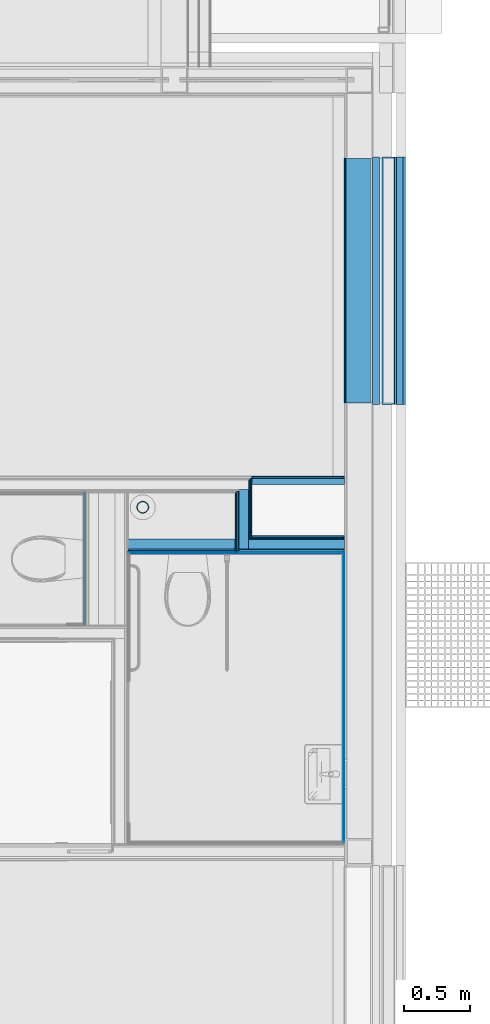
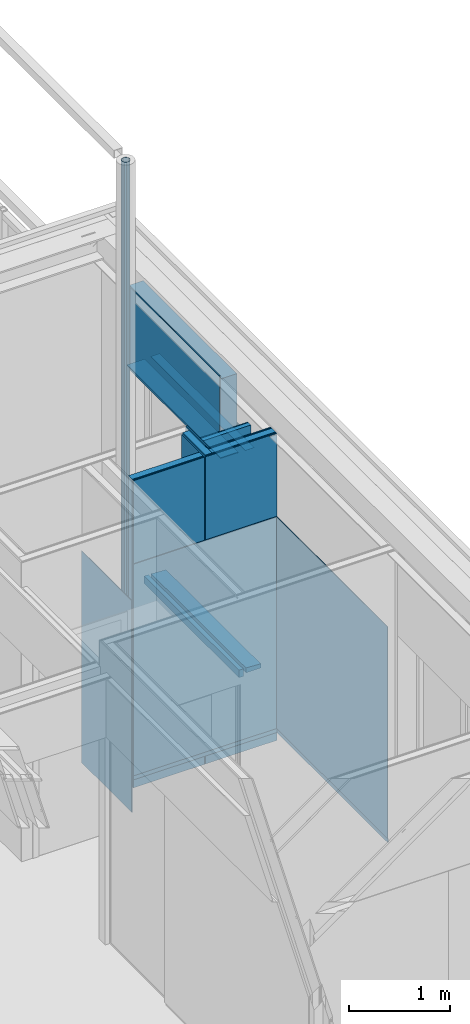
# One storey, part 75 of 165: 28 building element parts, 11 elements without a shape of their own.
"""IFC2X3 building model written with IfcOpenShell, lengths in millimetres."""

from ifc_helpers import new_model, entity, si_unit, converted_unit, derived_unit, money_unit, direction, frame, origin_with_axes, place, context, subcontext, project, spatial, faceted_brep, material, type_object, element, aggregate, save


model = new_model("IFC2X3")

# Units and contexts
model_context = context("Model", 3, precision=0.01, world=origin_with_axes(), true_north=direction((0.0, 1.0)))
body_context = subcontext(model_context, "Body", "Model", "MODEL_VIEW")
ifc_project = project(units=[si_unit("LENGTHUNIT", "METRE", prefix="MILLI"), si_unit("AREAUNIT", "SQUARE_METRE"), si_unit("VOLUMEUNIT", "CUBIC_METRE"), converted_unit("PLANEANGLEUNIT", "DEGREE", entity("IfcPlaneAngleMeasure", 0.0174532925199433), si_unit("PLANEANGLEUNIT", "RADIAN"), dimensions=[0, 0, 0, 0, 0, 0, 0]), money_unit("EUR"), converted_unit("TIMEUNIT", "Year", entity("IfcTimeMeasure", 31556926.0), si_unit("TIMEUNIT", "SECOND"), dimensions=[0, 0, 1, 0, 0, 0, 0]), si_unit("MASSUNIT", "GRAM", prefix="KILO"), si_unit("THERMODYNAMICTEMPERATUREUNIT", "DEGREE_CELSIUS"), si_unit("LUMINOUSINTENSITYUNIT", "LUMEN"), si_unit("ENERGYUNIT", "JOULE", prefix="MEGA"), derived_unit("THERMALCONDUCTANCEUNIT", [(si_unit("POWERUNIT", "WATT"), 1), (si_unit("LENGTHUNIT", "METRE"), -1), (si_unit("THERMODYNAMICTEMPERATUREUNIT", "KELVIN"), -1)]), derived_unit("SPECIFICHEATCAPACITYUNIT", [(si_unit("ENERGYUNIT", "JOULE"), 1), (si_unit("MASSUNIT", "GRAM", prefix="KILO"), -1), (si_unit("THERMODYNAMICTEMPERATUREUNIT", "KELVIN"), -1)]), derived_unit("MASSDENSITYUNIT", [(si_unit("MASSUNIT", "GRAM", prefix="KILO"), 1), (si_unit("VOLUMEUNIT", "CUBIC_METRE"), -1)])], contexts=[model_context])

# Site, building, storey
site_placement = place(None, origin_with_axes())
site = spatial("IfcSite", under=ifc_project, at=site_placement, Name="Site", CompositionType="ELEMENT")
building_placement = place(site_placement, origin_with_axes())
building = spatial("IfcBuilding", under=site, at=building_placement, Name="Naam gebouw", CompositionType="ELEMENT")
storey_placement = place(building_placement, origin_with_axes())
storey = spatial("IfcBuildingStorey", under=building, at=storey_placement, Name="Begane grond", CompositionType="ELEMENT", Elevation=0.0)

# Proxy, building element parts
building_element_proxy_type_1 = type_object("IfcBuildingElementProxyType", Name="22 Metal stud 100 voorzetwand 100", PredefinedType="NOTDEFINED")
proxy_1_placement = place(storey_placement, frame((28049.99849422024, 13074.99778100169, -100.0), z_axis=(0.0, 0.0, 1.0), x_axis=(1.0, -5.154366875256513e-09, 0.0)))
proxy_1 = element("IfcBuildingElementProxy", 1, at=proxy_1_placement, inside=storey, type_object=building_element_proxy_type_1, Name="_Wand-x")
ifc_material_1 = material(Name="ALG - LICHTE SCHEIDINGSWAND")
building_element_part_1_placement = place(proxy_1_placement, origin_with_axes())
building_element_part_1 = element("IfcBuildingElementPart", 2, at=building_element_part_1_placement, material=ifc_material_1, Name="ALG - LICHTE SCHEIDINGSWAND", context=body_context, shape_type="Brep", body=[
    faceted_brep([(811.0015056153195, 25.0000004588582, 3700.0), (811.0015052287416, 100.0000004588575, 3700.0), (-6.67035919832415e-05, 99.99999999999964, 3700.0), (-1.667589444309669e-05, 25.00000000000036, 3700.0), (811.0015052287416, 100.0000004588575, 0.0), (811.0015056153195, 25.0000004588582, 0.0), (-6.67035919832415e-05, 99.99999999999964, 0.0), (-1.667589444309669e-05, 25.00000000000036, 0.0)], [[[0, 1, 2, 3]], [[4, 1, 0, 5]], [[1, 4, 6, 2]], [[6, 7, 3, 2]], [[5, 0, 3, 7]], [[4, 5, 7, 6]]]),
])
ifc_material_2 = material(Name="Gipsplaat")
building_element_part_2_placement = place(proxy_1_placement, origin_with_axes())
building_element_part_2 = element("IfcBuildingElementPart", 3, at=building_element_part_2_placement, material=ifc_material_2, Name="Gipsplaat", context=body_context, shape_type="Brep", body=[
    faceted_brep([(811.0015057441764, 0.0, 3700.0), (811.0015056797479, 12.50000006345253, 3700.0), (-8.337945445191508e-06, 12.50000000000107, 3700.0), (0.0, 0.0, 3700.0), (811.0015056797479, 12.50000006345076, 0.0), (811.0015057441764, 0.0, 0.0), (-8.337945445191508e-06, 12.49999999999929, 0.0), (0.0, 0.0, 0.0)], [[[0, 1, 2, 3]], [[4, 1, 0, 5]], [[1, 4, 6, 2]], [[6, 7, 3, 2]], [[5, 0, 3, 7]], [[4, 5, 7, 6]]]),
])
building_element_part_3_placement = place(proxy_1_placement, origin_with_axes())
building_element_part_3 = element("IfcBuildingElementPart", 4, at=building_element_part_3_placement, material=ifc_material_2, Name="Gipsplaat", context=body_context, shape_type="Brep", body=[
    faceted_brep([(811.0015056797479, 12.50000012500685, 3700.0), (811.0015056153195, 25.00000012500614, 3700.0), (-1.667589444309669e-05, 25.00000000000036, 3700.0), (-8.337945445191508e-06, 12.50000000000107, 3700.0), (811.0015056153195, 25.00000012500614, 0.0), (811.0015056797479, 12.50000012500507, 0.0), (-1.667589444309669e-05, 25.00000000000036, 0.0), (-8.337945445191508e-06, 12.49999999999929, 0.0)], [[[0, 1, 2, 3]], [[4, 1, 0, 5]], [[1, 4, 6, 2]], [[6, 7, 3, 2]], [[5, 0, 3, 7]], [[4, 5, 7, 6]]]),
])
aggregate(proxy_1, [building_element_part_1, building_element_part_2, building_element_part_3])

# Beam, building element parts
beam_type_1 = type_object("IfcBeamType", Name="41 Latei/geveldrager 158 x 112", PredefinedType="BEAM")
beam_1_placement = place(storey_placement, frame((30080.0, 16065.99778166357, 2610.0), z_axis=(0.0, 0.0, 1.0), x_axis=(-1.0, 0.0, 0.0)))
beam_1 = element("IfcBeam", 5, at=beam_1_placement, inside=storey, type_object=beam_type_1, Name="_Regenwaterafvoer-x", ObjectType="BEAM")
ifc_material_3 = material(Name="Metaal - Staal C")
building_element_part_4_placement = place(beam_1_placement, origin_with_axes())
building_element_part_4 = element("IfcBuildingElementPart", 6, at=building_element_part_4_placement, material=ifc_material_3, Name="Metaal - Staal C", context=body_context, shape_type="Brep", body=[
    faceted_brep([(-50.00000000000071, 1869.999999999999, 6.55651533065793e-07), (-50.00000000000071, 1869.999999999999, -3.000000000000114), (-50.00000000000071, 0.0, -3.000000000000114), (-50.00000000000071, 0.0, 6.55651533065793e-07), (-5.9603877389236e-08, 1869.999999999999, 6.55651533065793e-07), (-5.9603877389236e-08, 1869.999999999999, 99.3417707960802), (16.54654975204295, 1869.999999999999, 108.894926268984), (18.04655007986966, 1869.999999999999, 106.296849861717), (3.000000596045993, 1869.999999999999, 96.99999988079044), (3.000000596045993, 1869.999999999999, 6.55651533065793e-07), (3.000000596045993, 1869.999999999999, -3.000000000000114), (3.000000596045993, 0.0, -3.000000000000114), (3.000000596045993, 0.0, 6.55651533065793e-07), (3.000000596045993, 0.0, 96.99999988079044), (18.04655007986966, 0.0, 106.296849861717), (16.54654975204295, 0.0, 108.894926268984), (-5.9603877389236e-08, 0.0, 99.3417707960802), (-5.9603877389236e-08, 0.0, 6.55651533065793e-07)], [[[0, 1, 2, 3]], [[0, 4, 5, 6, 7, 8, 9, 10, 1]], [[1, 10, 11, 2]], [[3, 2, 11, 12, 13, 14, 15, 16, 17]], [[4, 0, 3, 17]], [[5, 4, 17, 16]], [[6, 5, 16, 15]], [[7, 6, 15, 14]], [[8, 7, 14, 13]], [[9, 8, 13, 12]], [[10, 9, 12, 11]]]),
])
building_element_part_5_placement = place(beam_1_placement, origin_with_axes())
building_element_part_5 = element("IfcBuildingElementPart", 7, at=building_element_part_5_placement, material=ifc_material_3, Name="Metaal - Staal C", context=body_context, shape_type="Brep", body=[
    faceted_brep([(3.000000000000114, 1869.999999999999, -3.000000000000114), (108.0000000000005, 1869.999999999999, -3.000000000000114), (108.0000000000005, 0.0, -3.000000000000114), (3.000000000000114, 0.0, -3.000000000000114), (3.000000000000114, 1869.999999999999, 0.0), (108.0000000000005, 1869.999999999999, 0.0), (108.0000000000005, 0.0, 0.0), (3.000000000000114, 0.0, 0.0)], [[[0, 1, 2, 3]], [[0, 4, 5, 1]], [[1, 5, 6, 2]], [[3, 2, 6, 7]], [[4, 0, 3, 7]], [[5, 4, 7, 6]]]),
])
aggregate(beam_1, [building_element_part_4, building_element_part_5])

beam_type_2 = type_object("IfcBeamType", Name="31 Betondorpel 250 x 90", PredefinedType="BEAM")
beam_2_placement = place(storey_placement, frame((30150.0, 16065.99778166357, -100.0000000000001), z_axis=(0.0, 0.0, 1.0), x_axis=(-1.0, 0.0, 0.0)))
beam_2 = element("IfcBeam", 8, at=beam_2_placement, inside=storey, type_object=beam_type_2, Name="_Regenwaterafvoer-x", ObjectType="BEAM")
ifc_material_4 = material(Name="Beton gewapend prefab")
building_element_part_6_placement = place(beam_2_placement, origin_with_axes())
building_element_part_6 = element("IfcBuildingElementPart", 9, at=building_element_part_6_placement, material=ifc_material_4, Name="Beton gewapend prefab", context=body_context, shape_type="Brep", body=[
    faceted_brep([(0.0, 1869.999999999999, 30.04212834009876), (169.9999999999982, 1869.999999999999, 30.04212834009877), (170.0000000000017, 0.0, 30.04212834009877), (0.0, 0.0, 30.04212834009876), (0.0, 1869.999999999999, 80.04212834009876), (169.9999999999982, 1869.999999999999, 90.04212834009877), (169.9999999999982, 1869.999999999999, 90.00000000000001), (170.0000000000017, 0.0, 90.00000000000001), (170.0000000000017, 0.0, 90.04212834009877), (0.0, 0.0, 80.04212834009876)], [[[0, 1, 2, 3]], [[0, 4, 5, 6, 1]], [[1, 6, 7, 2]], [[3, 2, 7, 8, 9]], [[4, 0, 3, 9]], [[5, 4, 9, 8]], [[6, 5, 8, 7]]]),
])
ifc_material_5 = material(Name="Isolatie - Kunststof hard")
building_element_part_7_placement = place(beam_2_placement, origin_with_axes())
building_element_part_7 = element("IfcBuildingElementPart", 10, at=building_element_part_7_placement, material=ifc_material_5, Name="Isolatie - Kunststof hard", context=body_context, shape_type="Brep", body=[
    faceted_brep([(199.9999999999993, 1869.999999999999, 0.0), (250.0, 1869.999999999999, 0.0), (250.0, 0.0, 0.0), (199.9999999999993, 0.0, 0.0), (199.9999999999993, 1869.999999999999, 30.04212815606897), (199.9999999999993, 1869.999999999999, 90.00000000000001), (250.0, 1869.999999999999, 90.00000000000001), (250.0, 0.0, 90.00000000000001), (199.9999999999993, 0.0, 90.00000000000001), (199.9999999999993, 0.0, 30.04212815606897)], [[[0, 1, 2, 3]], [[0, 4, 5, 6, 1]], [[1, 6, 7, 2]], [[3, 2, 7, 8, 9]], [[4, 0, 3, 9]], [[5, 4, 9, 8]], [[6, 5, 8, 7]]]),
])
aggregate(beam_2, [building_element_part_6, building_element_part_7])

# Column, building element part
column_type = type_object("IfcColumnType", Name="50 HWA pluvia 190 x 190", PredefinedType="COLUMN")
column_placement = place(storey_placement, frame((28160.42270007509, 13417.00472609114, -449.9999999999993), z_axis=(0.0, 0.0, 1.0), x_axis=(1.0, 0.0, 0.0)))
column = element("IfcColumn", 11, at=column_placement, inside=storey, type_object=column_type, Name="28_Kolom-x", ObjectType="COLUMN")
building_element_part_8_placement = place(column_placement, origin_with_axes())
building_element_part_8 = element("IfcBuildingElementPart", 12, at=building_element_part_8_placement, material=ifc_material_3, Name="Metaal - Staal C", context=body_context, shape_type="Brep", body=[
    faceted_brep([(45.00000000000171, 0.0, 0.0), (41.57457896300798, 17.22075445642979, 0.0), (41.57457896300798, 17.22075445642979, 7670.0), (45.00000000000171, 0.0, 7670.0), (41.57457896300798, -17.22075445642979, 0.0), (31.81980515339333, -31.81980515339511, 0.0), (17.22075445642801, -41.57457896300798, 0.0), (0.0, -44.99999999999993, 0.0), (-17.22075445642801, -41.57457896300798, 0.0), (-31.81980515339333, -31.81980515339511, 0.0), (-41.57457896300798, -17.22075445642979, 0.0), (-45.00000000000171, 0.0, 0.0), (-41.57457896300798, 17.22075445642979, 0.0), (-31.81980515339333, 31.81980515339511, 0.0), (-17.22075445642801, 41.57457896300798, 0.0), (0.0, 44.99999999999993, 0.0), (17.22075445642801, 41.57457896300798, 0.0), (31.81980515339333, 31.81980515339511, 0.0), (-42.00000000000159, 0.0, 0.0), (-38.80294036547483, -16.07270415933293, 0.0), (-29.69848480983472, -29.69848480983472, 0.0), (-16.07270415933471, -38.80294036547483, 0.0), (0.0, -41.99999999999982, 0.0), (16.07270415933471, -38.80294036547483, 0.0), (29.69848480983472, -29.69848480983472, 0.0), (38.80294036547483, -16.07270415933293, 0.0), (42.00000000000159, 0.0, 0.0), (38.80294036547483, 16.07270415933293, 0.0), (29.69848480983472, 29.69848480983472, 0.0), (16.07270415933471, 38.80294036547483, 0.0), (0.0, 41.99999999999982, 0.0), (-16.07270415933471, 38.80294036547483, 0.0), (-29.69848480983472, 29.69848480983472, 0.0), (-38.80294036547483, 16.07270415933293, 0.0), (31.81980515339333, 31.81980515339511, 7670.0), (17.22075445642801, 41.57457896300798, 7670.0), (0.0, 44.99999999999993, 7670.0), (-17.22075445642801, 41.57457896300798, 7670.0), (-31.81980515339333, 31.81980515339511, 7670.0), (-41.57457896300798, 17.22075445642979, 7670.0), (-45.00000000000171, 0.0, 7670.0), (-41.57457896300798, -17.22075445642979, 7670.0), (-31.81980515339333, -31.81980515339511, 7670.0), (-17.22075445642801, -41.57457896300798, 7670.0), (0.0, -44.99999999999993, 7670.0), (17.22075445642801, -41.57457896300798, 7670.0), (31.81980515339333, -31.81980515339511, 7670.0), (41.57457896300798, -17.22075445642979, 7670.0), (-42.00000000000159, 0.0, 7670.0), (-38.80294036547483, 16.07270415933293, 7670.0), (-29.69848480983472, 29.69848480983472, 7670.0), (-16.07270415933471, 38.80294036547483, 7670.0), (0.0, 41.99999999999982, 7670.0), (16.07270415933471, 38.80294036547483, 7670.0), (29.69848480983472, 29.69848480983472, 7670.0), (38.80294036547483, 16.07270415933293, 7670.0), (42.00000000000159, 0.0, 7670.0), (38.80294036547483, -16.07270415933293, 7670.0), (29.69848480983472, -29.69848480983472, 7670.0), (16.07270415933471, -38.80294036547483, 7670.0), (0.0, -41.99999999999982, 7670.0), (-16.07270415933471, -38.80294036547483, 7670.0), (-29.69848480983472, -29.69848480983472, 7670.0), (-38.80294036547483, -16.07270415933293, 7670.0)], [[[0, 1, 2, 3]], [[0, 4, 5, 6, 7, 8, 9, 10, 11, 12, 13, 14, 15, 16, 17, 1], [18, 19, 20, 21, 22, 23, 24, 25, 26, 27, 28, 29, 30, 31, 32, 33]], [[1, 17, 34, 2]], [[3, 2, 34, 35, 36, 37, 38, 39, 40, 41, 42, 43, 44, 45, 46, 47], [48, 49, 50, 51, 52, 53, 54, 55, 56, 57, 58, 59, 60, 61, 62, 63]], [[4, 0, 3, 47]], [[5, 4, 47, 46]], [[6, 5, 46, 45]], [[7, 6, 45, 44]], [[8, 7, 44, 43]], [[9, 8, 43, 42]], [[10, 9, 42, 41]], [[11, 10, 41, 40]], [[12, 11, 40, 39]], [[13, 12, 39, 38]], [[14, 13, 38, 37]], [[15, 14, 37, 36]], [[16, 15, 36, 35]], [[17, 16, 35, 34]], [[19, 18, 48, 63]], [[20, 19, 63, 62]], [[21, 20, 62, 61]], [[22, 21, 61, 60]], [[23, 22, 60, 59]], [[24, 23, 59, 58]], [[25, 24, 58, 57]], [[26, 25, 57, 56]], [[27, 26, 56, 55]], [[28, 27, 55, 54]], [[29, 28, 54, 53]], [[30, 29, 53, 52]], [[31, 30, 52, 51]], [[32, 31, 51, 50]], [[33, 32, 50, 49]], [[18, 33, 49, 48]]]),
])
aggregate(column, [building_element_part_8])

# Proxy, building element parts
building_element_proxy_type_2 = type_object("IfcBuildingElementProxyType", Name="42 Tegelwerk 2600+ 12 x 2600", PredefinedType="NOTDEFINED")
proxy_2_placement = place(storey_placement, frame((29666.0, 10892.50011055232, 0.0), z_axis=(0.0, 0.0, 1.0), x_axis=(0.0, 1.0, 0.0)))
proxy_2 = element("IfcBuildingElementProxy", 13, at=proxy_2_placement, inside=storey, type_object=building_element_proxy_type_2, Name="_Wand-x")
ifc_material_6 = material(Name="21 STO lijmlaag")
building_element_part_9_placement = place(proxy_2_placement, origin_with_axes())
building_element_part_9 = element("IfcBuildingElementPart", 14, at=building_element_part_9_placement, material=ifc_material_6, Name="21 STO lijmlaag", context=body_context, shape_type="Brep", body=[
    faceted_brep([(-13.00000447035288, -13.00000447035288, 2600.0), (-13.00000447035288, -19.99999552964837, 2600.0), (2182.497678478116, -19.99999552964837, 2600.0), (2182.497678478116, -13.00000447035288, 2600.0), (-13.00000447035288, -19.99999552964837, 50.00000000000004), (-13.00000447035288, -13.00000447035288, 50.00000000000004), (-13.00000447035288, -14.99999850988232, 50.00000000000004), (2182.497678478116, -19.99999552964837, 50.00000596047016), (2182.497678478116, -13.00000447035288, 50.00000596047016), (2182.497678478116, -14.99999850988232, 50.00000596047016)], [[[0, 1, 2, 3]], [[4, 1, 0, 5, 6]], [[1, 4, 7, 2]], [[8, 3, 2, 7, 9]], [[5, 0, 3, 8]], [[6, 5, 8, 9]], [[4, 6, 9, 7]]]),
])
ifc_material_7 = material(Name="48 vloeivloer Bolidt")
building_element_part_10_placement = place(proxy_2_placement, origin_with_axes())
building_element_part_10 = element("IfcBuildingElementPart", 15, at=building_element_part_10_placement, material=ifc_material_7, Name="48 vloeivloer Bolidt", context=body_context, shape_type="Brep", body=[
    faceted_brep([(-14.99999850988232, -14.99999850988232, 50.00000596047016), (-14.99999850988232, -19.99998360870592, 50.00000596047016), (2182.497678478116, -19.99998360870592, 50.00000596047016), (2182.497678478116, -14.99999850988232, 50.00000596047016), (-14.99999850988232, -19.99998360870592, 0.0), (-14.99999850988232, -14.99999850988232, 0.0), (2182.497678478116, -19.99998360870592, 0.0), (2182.497678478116, -14.99999850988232, 0.0)], [[[0, 1, 2, 3]], [[4, 1, 0, 5]], [[1, 4, 6, 2]], [[3, 2, 6, 7]], [[5, 0, 3, 7]], [[4, 5, 7, 6]]]),
])
aggregate(proxy_2, [building_element_part_9, building_element_part_10])

proxy_3_placement = place(storey_placement, frame((29666.0, 13054.99778157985, 0.0), z_axis=(0.0, 0.0, 1.0), x_axis=(-1.0, -3.57774182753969e-10, 0.0)))
proxy_3 = element("IfcBuildingElementProxy", 16, at=proxy_3_placement, inside=storey, type_object=building_element_proxy_type_2, Name="_Wand-x")
building_element_part_11_placement = place(proxy_3_placement, origin_with_axes())
building_element_part_11 = element("IfcBuildingElementPart", 17, at=building_element_part_11_placement, material=ifc_material_6, Name="21 STO lijmlaag", context=body_context, shape_type="Brep", body=[
    faceted_brep([(-13.00000447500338, -13.0000044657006, 2600.0), (-13.00000447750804, -19.99999552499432, 2600.0), (1616.001513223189, -19.99999610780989, 2600.0), (1616.001508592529, -13.00000504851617, 2600.0), (-13.00000447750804, -19.99999552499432, 50.00000000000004), (-13.00000447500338, -13.0000044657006, 50.00000000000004), (-13.00000447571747, -14.99999850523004, 50.00000000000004), (1616.001513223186, -19.99999610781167, 50.00000596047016), (1616.001508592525, -13.00000504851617, 50.00000596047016), (1616.00150991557, -14.99999908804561, 50.00000596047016)], [[[0, 1, 2, 3]], [[4, 1, 0, 5, 6]], [[1, 4, 7, 2]], [[8, 3, 2, 7, 9]], [[5, 0, 3, 8]], [[6, 5, 8, 9]], [[4, 6, 9, 7]]]),
])
building_element_part_12_placement = place(proxy_3_placement, origin_with_axes())
building_element_part_12 = element("IfcBuildingElementPart", 18, at=building_element_part_12_placement, material=ifc_material_7, Name="48 vloeivloer Bolidt", context=body_context, shape_type="Brep", body=[
    faceted_brep([(-14.99999851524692, -14.99999850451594, 50.00000596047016), (-14.99999851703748, -19.99998360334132, 50.00000596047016), (1616.001513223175, -19.99998418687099, 50.00000596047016), (1616.00150991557, -14.99999908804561, 50.00000596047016), (-14.99999851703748, -19.99998360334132, 0.0), (-14.99999851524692, -14.99999850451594, 0.0), (1616.001513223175, -19.99998418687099, 0.0), (1616.00150991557, -14.99999908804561, 0.0)], [[[0, 1, 2, 3]], [[4, 1, 0, 5]], [[1, 4, 6, 2]], [[3, 2, 6, 7]], [[5, 0, 3, 7]], [[4, 5, 7, 6]]]),
])
aggregate(proxy_3, [building_element_part_11, building_element_part_12])

# Proxy, building element part
proxy_4_placement = place(storey_placement, frame((27704.99814997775, 12544.99908016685, 0.0), z_axis=(0.0, 0.0, 1.0), x_axis=(4.734246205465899e-08, 0.9999999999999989, 0.0)))
proxy_4 = element("IfcBuildingElementProxy", 19, at=proxy_4_placement, inside=storey, type_object=building_element_proxy_type_2, Name="_Wand-x")
building_element_part_13_placement = place(proxy_4_placement, origin_with_axes())
building_element_part_13 = element("IfcBuildingElementPart", 20, at=building_element_part_13_placement, material=ifc_material_6, Name="21 STO lijmlaag", context=body_context, shape_type="Brep", body=[
    faceted_brep([(-13.00007930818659, -13.00000508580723, 2600.0), (-13.00007897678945, -19.99999614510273, 2600.0), (979.9989872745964, -19.99994913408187, 2600.0), (979.9989853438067, -12.99995807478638, 2600.0), (-13.00007897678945, -19.99999614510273, 50.00000000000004), (-13.00007930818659, -13.00000508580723, 50.00000000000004), (-13.00007921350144, -14.99999912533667, 50.00000000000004), (979.9989872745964, -19.99994913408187, 50.00000596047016), (979.9989853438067, -12.99995807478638, 50.00000596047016), (979.9989858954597, -14.99995211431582, 50.00000596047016)], [[[0, 1, 2, 3]], [[4, 1, 0, 5, 6]], [[1, 4, 7, 2]], [[8, 3, 2, 7, 9]], [[5, 0, 3, 8]], [[6, 5, 8, 9]], [[4, 6, 9, 7]]]),
])
aggregate(proxy_4, [building_element_part_13])

# Beam, building element parts
beam_type_3 = type_object("IfcBeamType", Name="31 HSB boven kozijnen 214 x 1000", PredefinedType="BEAM")
beam_3_placement = place(storey_placement, frame((29686.0, 16055.99778166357, 2600.000000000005), z_axis=(0.0, 0.0, 1.0), x_axis=(-1.0, 0.0, 0.0)))
beam_3 = element("IfcBeam", 21, at=beam_3_placement, inside=storey, type_object=beam_type_3, Name="28_Balk-x", ObjectType="BEAM")
building_element_part_14_placement = place(beam_3_placement, origin_with_axes())
building_element_part_14 = element("IfcBuildingElementPart", 22, at=building_element_part_14_placement, material=ifc_material_2, Name="Gipsplaat", context=body_context, shape_type="Brep", body=[
    faceted_brep([(-11.99999661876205, 1850.000000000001, 0.0), (9.341707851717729e-06, 1850.000000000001, 0.0), (9.341711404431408e-06, 0.0, 0.0), (-11.99999661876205, 0.0, 0.0), (-11.99999661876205, 1850.000000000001, 999.9999999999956), (9.341711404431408e-06, 1850.000000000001, 999.9999999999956), (9.341711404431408e-06, 0.0, 999.9999999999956), (-11.9999966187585, 0.0, 999.9999999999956)], [[[0, 1, 2, 3]], [[0, 4, 5, 1]], [[1, 5, 6, 2]], [[3, 2, 6, 7]], [[4, 0, 3, 7]], [[5, 4, 7, 6]]]),
])
building_element_part_15_placement = place(beam_3_placement, origin_with_axes())
building_element_part_15 = element("IfcBuildingElementPart", 23, at=building_element_part_15_placement, material=ifc_material_2, Name="Gipsplaat", context=body_context, shape_type="Brep", body=[
    faceted_brep([(-214.0000025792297, 1850.000000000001, 12.00000596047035), (-214.0000025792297, 1850.000000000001, 0.0), (-214.0000025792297, 0.0, 0.0), (-214.0000025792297, 0.0, 12.00000596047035), (-11.99999661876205, 1850.000000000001, 12.00000596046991), (-11.99999661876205, 1850.000000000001, 0.0), (-11.99999661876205, 0.0, 0.0), (-11.99999661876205, 0.0, 12.00000596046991)], [[[0, 1, 2, 3]], [[0, 4, 5, 1]], [[1, 5, 6, 2]], [[3, 2, 6, 7]], [[4, 0, 3, 7]], [[5, 4, 7, 6]]]),
])
ifc_material_8 = material(Name="ALG - ISOLATIE")
building_element_part_16_placement = place(beam_3_placement, origin_with_axes())
building_element_part_16 = element("IfcBuildingElementPart", 24, at=building_element_part_16_placement, material=ifc_material_8, Name="ALG - ISOLATIE", context=body_context, shape_type="Brep", body=[
    faceted_brep([(-12.00000000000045, 1850.000000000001, 49.99999999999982), (-12.00000000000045, 1850.000000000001, 961.9999999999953), (-12.00000000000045, 0.0, 961.9999999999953), (-12.00000000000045, 0.0, 49.99999999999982), (-196.0000000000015, 1850.000000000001, 49.99999999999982), (-196.0000000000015, 1850.000000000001, 961.9999999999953), (-195.999999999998, 0.0, 961.9999999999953), (-195.999999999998, 0.0, 49.99999999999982)], [[[0, 1, 2, 3]], [[0, 4, 5, 1]], [[1, 5, 6, 2]], [[3, 2, 6, 7]], [[4, 0, 3, 7]], [[5, 4, 7, 6]]]),
])
aggregate(beam_3, [building_element_part_14, building_element_part_15, building_element_part_16])

# Proxy, building element parts
building_element_proxy_type_3 = type_object("IfcBuildingElementProxyType", Name="22 Metal stud 125 gips 125", PredefinedType="NOTDEFINED")
proxy_5_placement = place(storey_placement, frame((28860.99999996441, 13524.99778166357, -100.0), z_axis=(0.0, 0.0, 1.0), x_axis=(3.577740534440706e-10, -1.0, 0.0)))
proxy_5 = element("IfcBuildingElementProxy", 25, at=proxy_5_placement, inside=storey, type_object=building_element_proxy_type_3, Name="_Wand-x")
building_element_part_17_placement = place(proxy_5_placement, origin_with_axes())
building_element_part_17 = element("IfcBuildingElementPart", 26, at=building_element_part_17_placement, material=ifc_material_2, Name="Gipsplaat", context=body_context, shape_type="Brep", body=[
    faceted_brep([(350.0000048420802, 99.99999987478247, 0.0), (-99.99999996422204, 100.0000000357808, 0.0), (-99.99999995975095, 112.5000000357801, 0.0), (350.0000048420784, 112.4999998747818, 0.0), (350.0000048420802, 99.99999987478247, 3700.0), (-99.99999996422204, 100.0000000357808, 3700.0), (-99.99999995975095, 112.5000000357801, 3700.0), (350.0000048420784, 112.4999998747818, 3700.0)], [[[0, 1, 2, 3]], [[4, 5, 1, 0]], [[2, 1, 5, 6]], [[3, 2, 6, 7]], [[3, 7, 4, 0]], [[7, 6, 5, 4]]]),
])
building_element_part_18_placement = place(proxy_5_placement, origin_with_axes())
building_element_part_18 = element("IfcBuildingElementPart", 27, at=building_element_part_18_placement, material=ifc_material_1, Name="ALG - LICHTE SCHEIDINGSWAND", context=body_context, shape_type="Brep", body=[
    faceted_brep([(425.0000048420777, 24.99999984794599, 0.0), (-24.9999999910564, 25.00000000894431, 0.0), (-24.99999996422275, 100.0000000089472, 0.0), (425.0000048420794, 99.99999984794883, 0.0), (425.0000048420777, 24.99999984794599, 3700.0), (-24.9999999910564, 25.00000000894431, 3700.0), (-24.99999996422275, 100.0000000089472, 3700.0), (425.0000048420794, 99.99999984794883, 3700.0)], [[[0, 1, 2, 3]], [[4, 5, 1, 0]], [[2, 1, 5, 6]], [[3, 2, 6, 7]], [[3, 7, 4, 0]], [[7, 6, 5, 4]]]),
])
building_element_part_19_placement = place(proxy_5_placement, origin_with_axes())
building_element_part_19 = element("IfcBuildingElementPart", 28, at=building_element_part_19_placement, material=ifc_material_2, Name="Gipsplaat", context=body_context, shape_type="Brep", body=[
    faceted_brep([(437.5000048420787, 12.49999984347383, 0.0), (-12.4999999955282, 12.50000000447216, 0.0), (-12.49999999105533, 25.00000000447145, 0.0), (437.5000048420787, 24.99999984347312, 0.0), (437.5000048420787, 12.49999984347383, 3700.0), (-12.4999999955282, 12.50000000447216, 3700.0), (-12.49999999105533, 25.00000000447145, 3700.0), (437.5000048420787, 24.99999984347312, 3700.0)], [[[0, 1, 2, 3]], [[4, 5, 1, 0]], [[2, 1, 5, 6]], [[3, 2, 6, 7]], [[3, 7, 4, 0]], [[7, 6, 5, 4]]]),
])

proxy_6_placement = place(storey_placement, frame((28861.00000012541, 13074.99777682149, -100.0), z_axis=(0.0, 0.0, 1.0), x_axis=(1.0, 3.577760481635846e-10, 0.0)))
proxy_6 = element("IfcBuildingElementProxy", 29, at=proxy_6_placement, inside=storey, type_object=building_element_proxy_type_3, Name="_Wand-x")
building_element_part_20_placement = place(proxy_6_placement, origin_with_axes())
building_element_part_20 = element("IfcBuildingElementPart", 30, at=building_element_part_20_placement, material=ifc_material_2, Name="Gipsplaat", context=body_context, shape_type="Brep", body=[
    faceted_brep([(824.9999999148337, 112.4999997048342, 3695.0), (824.9999999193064, 124.9999997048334, 3695.0), (824.9999999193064, 124.9999997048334, 3700.0), (824.9999999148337, 112.4999997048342, 3700.0), (739.9999954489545, 124.9999997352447, 3695.0), (739.9999954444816, 112.4999997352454, 3695.0), (739.9999954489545, 124.9999997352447, 3683.0), (824.9999999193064, 124.9999997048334, 3683.0), (824.9999999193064, 124.9999997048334, 0.0), (125.0, 124.9999999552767, 0.0), (125.0, 124.9999999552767, 3700.0), (124.9999999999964, 112.4999999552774, 3700.0), (124.9999999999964, 112.4999999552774, 0.0), (824.9999999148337, 112.4999997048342, 0.0), (824.9999999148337, 112.4999997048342, 3683.0), (739.9999954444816, 112.4999997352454, 3683.0)], [[[0, 1, 2, 3]], [[4, 1, 0, 5]], [[6, 7, 8, 9, 10, 2, 1, 4]], [[3, 2, 10, 11]], [[5, 0, 3, 11, 12, 13, 14, 15]], [[6, 4, 5, 15]], [[14, 7, 6, 15]], [[7, 14, 13, 8]], [[8, 13, 12, 9]], [[10, 9, 12, 11]]]),
])
building_element_part_21_placement = place(proxy_6_placement, origin_with_axes())
building_element_part_21 = element("IfcBuildingElementPart", 31, at=building_element_part_21_placement, material=ifc_material_2, Name="Gipsplaat", context=body_context, shape_type="Brep", body=[
    faceted_brep([(824.9999999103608, 99.99999970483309, 3695.0), (824.9999999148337, 112.4999997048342, 3695.0), (824.9999999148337, 112.4999997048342, 3700.0), (824.9999999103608, 99.99999970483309, 3700.0), (739.9999954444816, 112.4999997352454, 3695.0), (739.9999954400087, 99.99999973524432, 3695.0), (739.9999954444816, 112.4999997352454, 3683.0), (824.9999999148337, 112.4999997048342, 3683.0), (824.9999999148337, 112.4999997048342, 0.0), (112.4999999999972, 112.4999999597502, 0.0), (112.4999999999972, 112.4999999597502, 3700.0), (112.4999999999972, 99.99999995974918, 3700.0), (112.4999999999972, 99.99999995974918, 0.0), (824.9999999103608, 99.99999970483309, 0.0), (824.9999999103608, 99.99999970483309, 3683.0), (739.9999954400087, 99.99999973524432, 3683.0)], [[[0, 1, 2, 3]], [[4, 1, 0, 5]], [[6, 7, 8, 9, 10, 2, 1, 4]], [[3, 2, 10, 11]], [[5, 0, 3, 11, 12, 13, 14, 15]], [[6, 4, 5, 15]], [[14, 7, 6, 15]], [[7, 14, 13, 8]], [[8, 13, 12, 9]], [[10, 9, 12, 11]]]),
])
building_element_part_22_placement = place(proxy_6_placement, origin_with_axes())
building_element_part_22 = element("IfcBuildingElementPart", 32, at=building_element_part_22_placement, material=ifc_material_1, Name="ALG - LICHTE SCHEIDINGSWAND", context=body_context, shape_type="Brep", body=[
    faceted_brep([(824.9999998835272, 24.9999997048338, 3695.0), (824.9999999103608, 99.99999970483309, 3695.0), (824.9999999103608, 99.99999970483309, 3700.0), (824.9999998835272, 24.9999997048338, 3700.0), (739.9999954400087, 99.99999973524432, 3695.0), (739.999995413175, 24.99999973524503, 3695.0), (739.9999954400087, 99.99999973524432, 3683.0), (824.9999999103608, 99.99999970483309, 3683.0), (824.9999999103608, 99.99999970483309, 0.0), (99.99999999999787, 99.99999996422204, 0.0), (99.99999999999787, 99.99999996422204, 3700.0), (99.99999999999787, 24.99999996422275, 3700.0), (99.99999999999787, 24.99999996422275, 0.0), (824.9999998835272, 24.9999997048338, 0.0), (824.9999998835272, 24.9999997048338, 3683.0), (739.999995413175, 24.99999973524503, 3683.0)], [[[0, 1, 2, 3]], [[4, 1, 0, 5]], [[6, 7, 8, 9, 10, 2, 1, 4]], [[3, 2, 10, 11]], [[5, 0, 3, 11, 12, 13, 14, 15]], [[6, 4, 5, 15]], [[14, 7, 6, 15]], [[7, 14, 13, 8]], [[8, 13, 12, 9]], [[10, 9, 12, 11]]]),
])
building_element_part_23_placement = place(proxy_6_placement, origin_with_axes())
building_element_part_23 = element("IfcBuildingElementPart", 33, at=building_element_part_23_placement, material=ifc_material_2, Name="Gipsplaat", context=body_context, shape_type="Brep", body=[
    faceted_brep([(824.999999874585, -2.951665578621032e-07, 3695.0), (824.9999998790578, 12.49999970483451, 3695.0), (824.9999998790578, 12.49999970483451, 3700.0), (824.999999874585, -2.951665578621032e-07, 3700.0), (739.9999954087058, 12.49999973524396, 3695.0), (739.9999954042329, -2.647553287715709e-07, 3695.0), (739.9999954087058, 12.49999973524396, 3683.0), (824.9999998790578, 12.49999970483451, 3683.0), (824.9999998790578, 12.49999970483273, 0.0), (12.49999999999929, 12.49999999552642, 0.0), (12.49999999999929, 12.4999999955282, 3700.0), (12.49999999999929, -4.472866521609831e-09, 3700.0), (12.49999999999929, -4.472866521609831e-09, 0.0), (824.999999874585, -2.951665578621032e-07, 0.0), (824.999999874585, -2.951665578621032e-07, 3683.0), (739.9999954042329, -2.647553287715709e-07, 3683.0)], [[[0, 1, 2, 3]], [[4, 1, 0, 5]], [[6, 7, 8, 9, 10, 2, 1, 4]], [[3, 2, 10, 11]], [[5, 0, 3, 11, 12, 13, 14, 15]], [[6, 4, 5, 15]], [[14, 7, 6, 15]], [[7, 14, 13, 8]], [[8, 13, 12, 9]], [[10, 9, 12, 11]]]),
])
building_element_part_24_placement = place(proxy_6_placement, origin_with_axes())
building_element_part_24 = element("IfcBuildingElementPart", 34, at=building_element_part_24_placement, material=ifc_material_2, Name="Gipsplaat", context=body_context, shape_type="Brep", body=[
    faceted_brep([(824.9999998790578, 12.49999970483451, 3695.0), (824.9999998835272, 24.9999997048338, 3695.0), (824.9999998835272, 24.9999997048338, 3700.0), (824.9999998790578, 12.49999970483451, 3700.0), (739.999995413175, 24.99999973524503, 3695.0), (739.9999954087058, 12.49999973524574, 3695.0), (739.999995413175, 24.99999973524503, 3683.0), (824.9999998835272, 24.9999997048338, 3683.0), (824.9999998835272, 24.9999997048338, 0.0), (24.99999999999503, 24.99999999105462, 0.0), (24.99999999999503, 24.99999999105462, 3700.0), (24.99999999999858, 12.49999999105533, 3700.0), (24.99999999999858, 12.49999999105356, 0.0), (824.9999998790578, 12.49999970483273, 0.0), (824.9999998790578, 12.49999970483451, 3683.0), (739.9999954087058, 12.49999973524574, 3683.0)], [[[0, 1, 2, 3]], [[4, 1, 0, 5]], [[6, 7, 8, 9, 10, 2, 1, 4]], [[3, 2, 10, 11]], [[5, 0, 3, 11, 12, 13, 14, 15]], [[6, 4, 5, 15]], [[14, 7, 6, 15]], [[7, 14, 13, 8]], [[8, 13, 12, 9]], [[10, 9, 12, 11]]]),
])
aggregate(proxy_6, [building_element_part_20, building_element_part_21, building_element_part_22, building_element_part_23, building_element_part_24])

# Building element part
building_element_part_25_placement = place(proxy_5_placement, origin_with_axes())
building_element_part_25 = element("IfcBuildingElementPart", 35, at=building_element_part_25_placement, material=ifc_material_2, Name="Gipsplaat", context=body_context, shape_type="Brep", body=[
    faceted_brep([(450.0000048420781, 12.49999983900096, 0.0), (450.0000048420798, -1.609983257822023e-07, 0.0), (0.0, 0.0, 0.0), (4.47109016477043e-09, 12.49999999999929, 0.0), (450.0000048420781, 12.49999983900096, 3700.0), (450.0000048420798, -1.609983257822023e-07, 3700.0), (0.0, 0.0, 3700.0), (4.47109016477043e-09, 12.49999999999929, 3700.0)], [[[0, 1, 2, 3]], [[1, 0, 4, 5]], [[1, 5, 6, 2]], [[7, 3, 2, 6]], [[4, 0, 3, 7]], [[5, 4, 7, 6]]]),
])

# Proxy, building element parts
building_element_proxy_type_4 = type_object("IfcBuildingElementProxyType", Name="22 Metal stud 62.5 plafond 63", PredefinedType="NOTDEFINED")
proxy_7_placement = place(storey_placement, frame((29686.0, 13649.99778166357, 2600.0), z_axis=(0.0, 0.0, 1.0), x_axis=(-1.0, 0.0, 0.0)))
proxy_7 = element("IfcBuildingElementProxy", 36, at=proxy_7_placement, inside=storey, type_object=building_element_proxy_type_4, Name="_Wand-x")
building_element_part_26_placement = place(proxy_7_placement, origin_with_axes())
building_element_part_26 = element("IfcBuildingElementPart", 37, at=building_element_part_26_placement, material=ifc_material_1, Name="ALG - LICHTE SCHEIDINGSWAND", context=body_context, shape_type="Brep", body=[
    faceted_brep([(0.0, 62.5, 12.00000000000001), (0.0, 12.49999999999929, 12.00000000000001), (0.0, 12.49999999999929, 787.9999999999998), (0.0, 62.5, 787.9999999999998), (700.0000000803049, 12.49999999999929, 12.00000000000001), (700.0000000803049, 62.5, 12.00000000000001), (700.0000000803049, 12.49999999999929, 787.9999999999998), (700.0000000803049, 62.5, 787.9999999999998)], [[[0, 1, 2, 3]], [[4, 1, 0, 5]], [[1, 4, 6, 2]], [[2, 6, 7, 3]], [[5, 0, 3, 7]], [[4, 5, 7, 6]]]),
])
building_element_part_27_placement = place(proxy_7_placement, origin_with_axes())
building_element_part_27 = element("IfcBuildingElementPart", 38, at=building_element_part_27_placement, material=ifc_material_2, Name="Gipsplaat", context=body_context, shape_type="Brep", body=[
    faceted_brep([(0.0, 12.49999999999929, 12.00000000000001), (0.0, 0.0, 12.00000000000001), (0.0, 0.0, 787.9999999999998), (0.0, 12.49999999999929, 787.9999999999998), (700.0000000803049, 0.0, 12.00000000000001), (700.0000000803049, 12.49999999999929, 12.00000000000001), (700.0000000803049, 0.0, 787.9999999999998), (700.0000000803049, 12.49999999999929, 787.9999999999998)], [[[0, 1, 2, 3]], [[4, 1, 0, 5]], [[1, 4, 6, 2]], [[2, 6, 7, 3]], [[5, 0, 3, 7]], [[4, 5, 7, 6]]]),
])
aggregate(proxy_7, [building_element_part_26, building_element_part_27])

# Building element part
building_element_part_28_placement = place(proxy_5_placement, origin_with_axes())
building_element_part_28 = element("IfcBuildingElementPart", 39, at=building_element_part_28_placement, material=ifc_material_2, Name="Gipsplaat", context=body_context, shape_type="Brep", body=[
    faceted_brep([(337.5000048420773, 112.4999998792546, 0.0), (-112.499999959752, 112.500000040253, 0.0), (-112.4999999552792, 125.0000000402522, 0.0), (337.5000048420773, 124.9999998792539, 0.0), (337.5000048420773, 112.4999998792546, 3700.0), (-112.499999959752, 112.500000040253, 3700.0), (-112.4999999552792, 125.0000000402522, 3700.0), (337.5000048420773, 124.9999998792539, 3700.0)], [[[0, 1, 2, 3]], [[4, 5, 1, 0]], [[2, 1, 5, 6]], [[3, 2, 6, 7]], [[3, 7, 4, 0]], [[7, 6, 5, 4]]]),
])

aggregate(proxy_5, [building_element_part_17, building_element_part_18, building_element_part_19, building_element_part_25, building_element_part_28])

save(model, "model.ifc")
